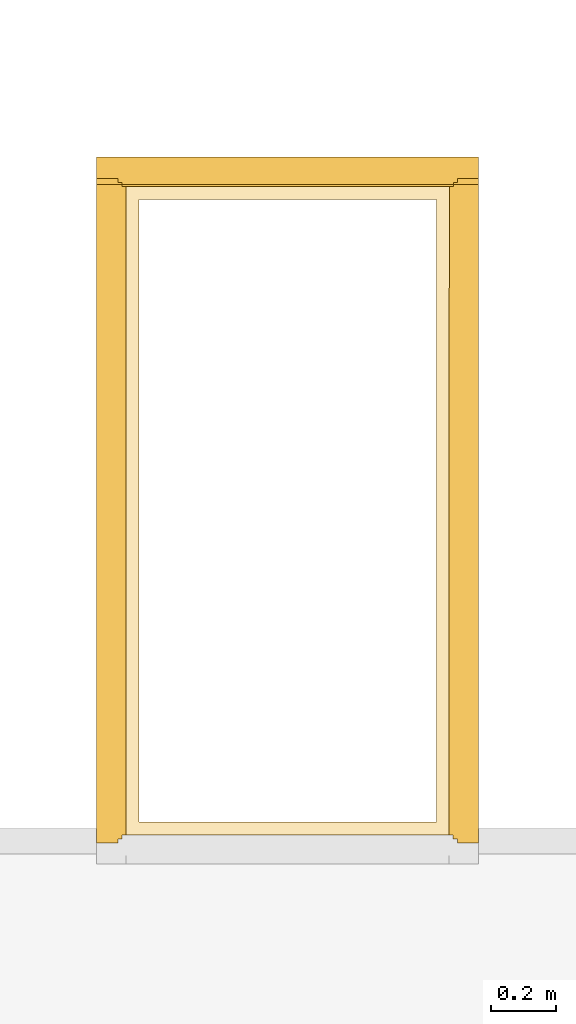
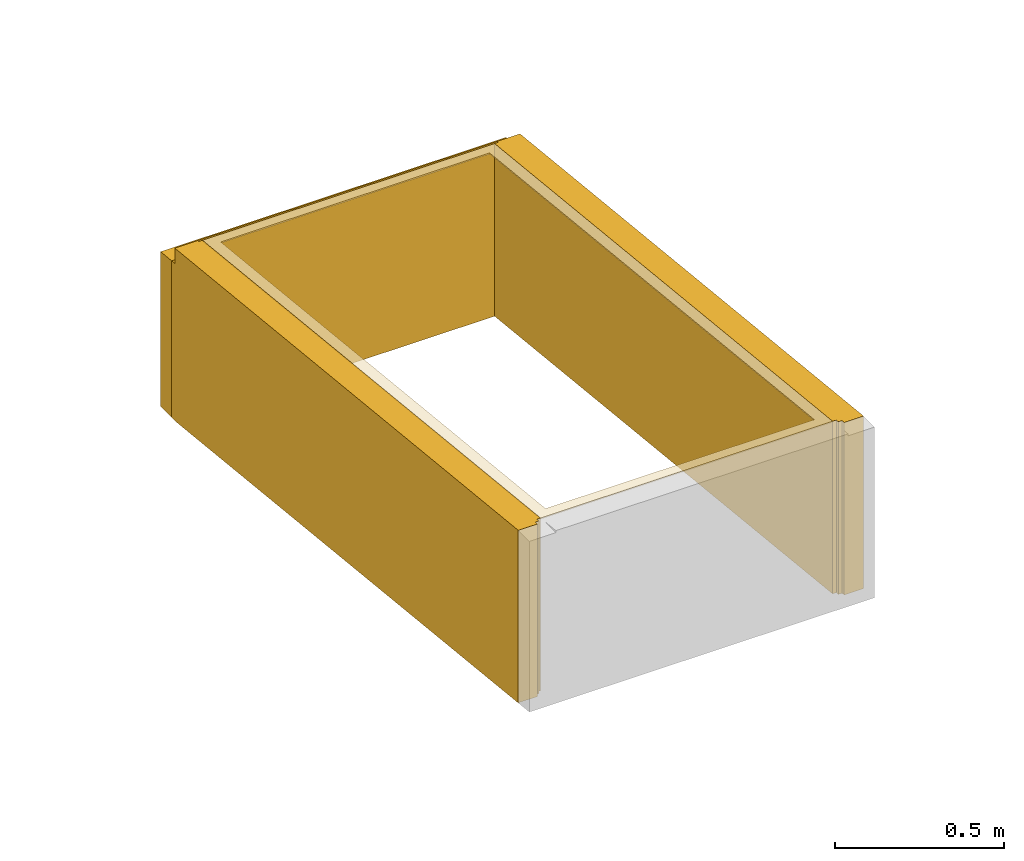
# One storey, part 14 of 23: 4 coverings, 1 opening.
"""IFC2X3 building model written with IfcOpenShell, lengths in millimetres."""

from ifc_helpers import new_model, entity, si_unit, converted_unit, derived_unit, money_unit, direction, frame, origin_with_axes, place, context, subcontext, project, spatial, faceted_brep, material, material_list, type_object, element, save


model = new_model("IFC2X3")

# Units and contexts
model_context = context("Model", 3, precision=0.01, world=origin_with_axes(), true_north=direction((0.0, 1.0)))
body_context = subcontext(model_context, "Body", "Model", "MODEL_VIEW")
ifc_project = project(units=[si_unit("LENGTHUNIT", "METRE", prefix="MILLI"), si_unit("AREAUNIT", "SQUARE_METRE"), si_unit("VOLUMEUNIT", "CUBIC_METRE"), converted_unit("PLANEANGLEUNIT", "DEGREE", entity("IfcPlaneAngleMeasure", 0.0174532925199), si_unit("PLANEANGLEUNIT", "RADIAN"), dimensions=[0, 0, 0, 0, 0, 0, 0]), si_unit("SOLIDANGLEUNIT", "STERADIAN"), money_unit("EUR"), converted_unit("TIMEUNIT", "Year", entity("IfcTimeMeasure", 31556926.0), si_unit("TIMEUNIT", "SECOND"), dimensions=[0, 0, 1, 0, 0, 0, 0]), si_unit("MASSUNIT", "GRAM", prefix="KILO"), si_unit("THERMODYNAMICTEMPERATUREUNIT", "DEGREE_CELSIUS"), si_unit("LUMINOUSINTENSITYUNIT", "LUMEN"), si_unit("ENERGYUNIT", "JOULE", prefix="MEGA"), derived_unit("THERMALCONDUCTANCEUNIT", [(si_unit("POWERUNIT", "WATT"), 1), (si_unit("LENGTHUNIT", "METRE"), -1), (si_unit("THERMODYNAMICTEMPERATUREUNIT", "KELVIN"), -1)]), derived_unit("SPECIFICHEATCAPACITYUNIT", [(si_unit("ENERGYUNIT", "JOULE"), 1), (si_unit("MASSUNIT", "GRAM", prefix="KILO"), -1), (si_unit("THERMODYNAMICTEMPERATUREUNIT", "KELVIN"), -1)]), derived_unit("MASSDENSITYUNIT", [(si_unit("MASSUNIT", "GRAM", prefix="KILO"), 1), (si_unit("VOLUMEUNIT", "CUBIC_METRE"), -1)])], contexts=[model_context])

# Site, building, storey
site_placement = place(None, origin_with_axes())
site = spatial("IfcSite", under=ifc_project, at=site_placement, Name="L.Koidula tn 11b", CompositionType="ELEMENT")
building_placement = place(site_placement, origin_with_axes())
building = spatial("IfcBuilding", under=site, at=building_placement, Name="Rakvere Riigigümnaasium", CompositionType="ELEMENT")
storey_placement = place(building_placement, frame((0.0, 0.0, 7440.0), z_axis=(0.0, 0.0, 1.0), x_axis=(1.0, 0.0, 0.0)))
storey = spatial("IfcBuildingStorey", under=building, at=storey_placement, Name="3.korrus +7,44", CompositionType="ELEMENT", Elevation=7440.0)

# Coverings
ifc_material_1 = material(Name="SKR-02_Kipsplaat")
ifc_material_2 = material(Name="mineraalvill+karkass")
ifc_material_list_1 = material_list([ifc_material_1, ifc_material_1, ifc_material_2])
covering_type_1 = type_object("IfcCoveringType", Name="SA-2xkips 91", PredefinedType="NOTDEFINED")
covering_1_placement = place(storey_placement, frame((56150.0444276, 17095.4555095, 2893.27320769), z_axis=(0.0, 0.0, 1.0), x_axis=(-1.0, 0.0, 0.0)))
element("IfcCovering", 1, at=covering_1_placement, inside=storey, type_object=covering_type_1, material=ifc_material_list_1, Name="Ava-pinnakate", PredefinedType="NOTDEFINED", context=body_context, shape_type="Brep", body=[
    faceted_brep([(1012.49901158, -6.79451562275, 633.466577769), (-12.5009724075, -6.79451562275, 633.466577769), (-12.5009724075, -6.79451562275, 578.381250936), (1012.49901158, -6.79451562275, 578.381250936), (-12.500000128, 0.0, 634.180710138), (1012.4999931, 0.0, 634.180710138), (-12.500000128, 0.0, 9.56941715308), (-12.5017888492, -12.5, 9.56941715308), (-12.5017888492, -12.5, 577.781580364), (1012.49818739, -12.5, 577.781580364), (1012.49818739, -12.5, 9.56941715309), (1012.4999931, 0.0, 9.56941715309), (999.999992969, 0.0, 9.56941706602), (999.999992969, 0.0, 9.30573779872), (0.0, 0.0, 9.30573779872), (0.0, 0.0, 9.56941706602), (0.0, -12.5, 9.56941706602), (0.0, -12.5, 7.9919348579), (999.999992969, -12.5, 7.9919348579), (999.999992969, -12.5, 9.56941706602)], [[[0, 1, 2, 3]], [[4, 1, 0, 5]], [[1, 4, 6, 7, 8, 2]], [[3, 2, 8, 9]], [[5, 0, 3, 9, 10, 11]], [[4, 5, 11, 12, 13, 14, 15, 6]], [[7, 6, 15, 16]], [[10, 9, 8, 7, 16, 17, 18, 19]], [[11, 10, 19, 12]], [[13, 12, 19, 18]], [[17, 14, 13, 18]], [[17, 16, 15, 14]]]),
    faceted_brep([(1024.9963818, -25.0, 576.467777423), (-25.0035776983, -25.0, 576.467777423), (-25.0035776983, -25.0, 9.56941715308), (0.0, -25.0, 9.56941706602), (0.0, -25.0, 6.67813191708), (999.999992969, -25.0, 6.67813191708), (999.999992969, -25.0, 9.56941706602), (1024.9963818, -25.0, 9.56941715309), (-25.0017889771, -12.5, 577.781580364), (1024.99818752, -12.5, 577.781580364), (-25.0017889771, -12.5, 9.56941715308), (0.0, -12.5, 9.56941706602), (0.0, -12.5, 7.9919348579), (999.999992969, -12.5, 7.9919348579), (999.999992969, -12.5, 9.56941706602), (1024.99818752, -12.5, 9.56941715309)], [[[0, 1, 2, 3, 4, 5, 6, 7]], [[8, 1, 0, 9]], [[1, 8, 10, 2]], [[10, 11, 3, 2]], [[3, 11, 12, 4]], [[12, 13, 5, 4]], [[14, 6, 5, 13]], [[7, 6, 14, 15]], [[9, 0, 7, 15]], [[8, 9, 15, 14, 13, 12, 11, 10]]]),
    faceted_brep([(1090.98684832, -91.0, 569.530897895), (-91.0130193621, -91.0, 569.530897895), (-91.0130193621, -91.0, 9.56941715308), (0.0, -91.0, 9.56941706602), (0.0, -91.0, 0.0), (999.999992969, -91.0, 0.0), (999.999992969, -91.0, 9.56941706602), (1090.98684832, -91.0, 9.56941715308), (-91.0035749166, -25.0, 576.467777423), (1090.99638249, -25.0, 576.467777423), (-91.0035749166, -25.0, 9.56941715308), (0.0, -25.0, 9.56941706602), (0.0, -25.0, 6.67813191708), (0.0, -88.5381809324, 0.0), (999.999992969, -88.5381809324, 0.0), (999.999992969, -25.0, 6.67813191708), (999.999992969, -25.0, 9.56941706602), (1090.99638249, -25.0, 9.56941715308)], [[[0, 1, 2, 3, 4, 5, 6, 7]], [[8, 1, 0, 9]], [[1, 8, 10, 2]], [[10, 11, 3, 2]], [[3, 11, 12, 13, 4]], [[5, 4, 13, 14]], [[6, 5, 14, 15, 16]], [[7, 6, 16, 17]], [[9, 0, 7, 17]], [[8, 9, 17, 16, 15, 12, 11, 10]], [[12, 15, 14, 13]]]),
])
covering_2_placement = place(storey_placement, frame((55150.0444346, 17095.4555095, 2902.84262484), z_axis=(0.0, 0.0, 1.0), x_axis=(-0.000144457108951, -0.999999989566, 0.0)))
element("IfcCovering", 2, at=covering_2_placement, inside=storey, type_object=covering_type_1, material=ifc_material_list_1, Name="Ava-pinnakate", PredefinedType="NOTDEFINED", context=body_context, shape_type="Brep", body=[
    faceted_brep([(0.00180571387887, -12.5, 624.611292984), (0.0, -1.29865895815e-07, 624.611292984), (0.0, -1.02232888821e-07, 0.0), (0.00180571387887, -12.5, 0.0), (2004.97700019, -1.52837742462e-08, 835.342865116), (2004.97880591, -12.5, 835.342865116), (2004.97700019, -1.1754579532e-06, 210.668278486), (2004.97700019, -1.1754579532e-06, 210.467892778), (2.50874150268, -1.03575814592e-07, 0.0), (2.51054721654, -12.5, 0.0), (2004.97880419, -12.5, 210.467892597), (2004.97880591, -12.5, 210.668278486)], [[[0, 1, 2, 3]], [[4, 1, 0, 5]], [[1, 4, 6, 7, 8, 2]], [[2, 8, 9, 3]], [[5, 0, 3, 9, 10, 11]], [[4, 5, 11, 6]], [[11, 10, 7, 6]], [[10, 9, 8, 7]]]),
    faceted_brep([(-6.79090426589, -25.0, 623.897160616), (-6.79270997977, -12.5, 623.897160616), (-6.79270997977, -12.5, 568.811833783), (-6.79090426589, -25.0, 568.811833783), (2017.47880604, -12.5, 836.656668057), (2017.48061175, -25.0, 836.656668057), (2017.47880604, -12.5, 211.781695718), (2006.88534859, -12.5, 210.668278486), (2004.97700019, -12.5, 210.668278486), (2004.97700019, -12.5, 210.467702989), (2.51054721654, -12.5, 0.0), (-12.4981944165, -12.5, 0.0), (-12.4981944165, -12.5, 568.212163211), (-12.4963887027, -25.0, 568.212163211), (-12.4963887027, -25.0, 0.0), (2.51235293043, -25.0, 0.0), (2004.97700019, -25.0, 210.467513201), (2004.97700019, -25.0, 210.668278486), (2006.8871543, -25.0, 210.668278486), (2017.48061175, -25.0, 211.781695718)], [[[0, 1, 2, 3]], [[4, 1, 0, 5]], [[1, 4, 6, 7, 8, 9, 10, 11, 12, 2]], [[3, 2, 12, 13]], [[5, 0, 3, 13, 14, 15, 16, 17, 18, 19]], [[4, 5, 19, 6]], [[6, 19, 18, 7]], [[17, 8, 7, 18]], [[8, 17, 16, 9]], [[9, 16, 15, 10]], [[14, 11, 10, 15]], [[14, 13, 12, 11]]]),
    faceted_brep([(-6.7813700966, -90.9999999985, 623.897160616), (-6.79090426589, -25.0, 623.897160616), (-6.79090426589, -25.0, 568.811833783), (-6.7813700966, -90.9999999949, 568.811833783), (2025.38909457, -25.0, 837.487883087), (2025.39862874, -90.9999999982, 837.487883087), (2029.98061188, -25.0, 837.487883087), (2029.98061188, -25.0, 213.095498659), (2006.8871543, -25.0, 210.668278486), (2004.97700019, -25.0, 210.668278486), (2004.97700019, -25.0, 210.467513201), (2.51235293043, -25.0, 0.0), (-24.9963888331, -25.0, 0.0), (-24.9963888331, -25.0, 566.89836027), (-24.9868546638, -90.9999999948, 566.89836027), (-24.9868546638, -90.9999999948, 0.0), (2.52188709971, -90.9999999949, 0.0), (2004.97700019, -91.0, 210.46651112), (2004.97700019, -91.0, 210.668278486), (2006.89668847, -90.9999999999, 210.668278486), (2029.99014605, -90.9999999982, 213.095498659), (2029.99014605, -90.9999999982, 837.487883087)], [[[0, 1, 2, 3]], [[4, 1, 0, 5]], [[1, 4, 6, 7, 8, 9, 10, 11, 12, 13, 2]], [[3, 2, 13, 14]], [[5, 0, 3, 14, 15, 16, 17, 18, 19, 20, 21]], [[4, 5, 21, 6]], [[6, 21, 20, 7]], [[7, 20, 19, 8]], [[18, 9, 8, 19]], [[9, 18, 17, 10]], [[10, 17, 16, 11]], [[15, 12, 11, 16]], [[15, 14, 13, 12]]]),
])
ifc_material_list_2 = material_list([ifc_material_2, ifc_material_1, ifc_material_1])
covering_3_placement = place(storey_placement, frame((56150.0444276, 17095.4555095, 2902.84262484), z_axis=(0.0, 0.0, 1.0), x_axis=(-0.00014309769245, -0.999999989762, 0.0)))
element("IfcCovering", 3, at=covering_3_placement, inside=storey, type_object=covering_type_1, material=ifc_material_list_2, Name="Ava-pinnakate", PredefinedType="NOTDEFINED", context=body_context, shape_type="Brep", body=[
    faceted_brep([(-6.79809313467, 25.0, 623.897160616), (-6.80753758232, 90.9999989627, 623.897160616), (-6.8075375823, 90.9999988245, 568.811833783), (-6.79809313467, 25.0, 568.811833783), (2025.37246086, 91.0000021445, 837.487883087), (2025.3819053, 25.0, 837.487883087), (2029.96397817, 91.0000021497, 837.487883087), (2029.96397817, 91.0000021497, 213.095498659), (2006.87052059, 90.9999990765, 210.668278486), (2004.9769998, 90.9999988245, 210.668278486), (2004.9769998, 90.9999988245, 210.469261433), (2.49571961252, 90.9999965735, 0.0), (-25.0130221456, 90.9999965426, 0.0), (-25.0130221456, 90.9999965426, 566.89836027), (-25.0035776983, 25.0, 566.89836027), (-25.0035776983, 25.0, 0.0), (2.50516405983, 25.0, 0.0), (2004.9769998, 25.0, 210.468268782), (2004.9769998, 25.0, 210.668278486), (2006.87996504, 25.0, 210.668278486), (2029.97342262, 25.0, 213.095498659), (2029.97342262, 25.0, 837.487883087)], [[[0, 1, 2, 3]], [[4, 1, 0, 5]], [[1, 4, 6, 7, 8, 9, 10, 11, 12, 13, 2]], [[3, 2, 13, 14]], [[5, 0, 3, 14, 15, 16, 17, 18, 19, 20, 21]], [[4, 5, 21, 6]], [[6, 21, 20, 7]], [[7, 20, 19, 8]], [[18, 9, 8, 19]], [[9, 18, 17, 10]], [[10, 17, 16, 11]], [[15, 12, 11, 16]], [[15, 14, 13, 12]]]),
    faceted_brep([(-6.79630441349, 12.5, 623.897160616), (-6.79809313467, 25.0, 623.897160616), (-6.79809313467, 25.0, 568.811833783), (-6.79630441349, 12.5, 568.811833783), (2017.47342249, 25.0, 836.656668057), (2017.47521121, 12.5, 836.656668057), (2017.47342249, 25.0, 211.781695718), (2006.87996504, 25.0, 210.668278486), (2004.9769998, 25.0, 210.668278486), (2004.9769998, 25.0, 210.468268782), (2.50516405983, 25.0, 0.0), (-12.5035775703, 25.0, 0.0), (-12.5035775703, 25.0, 568.212163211), (-12.5017888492, 12.5, 568.212163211), (-12.5017888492, 12.5, 0.0), (2.506952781, 12.5, 0.0), (2004.9769998, 12.5, 210.46808078), (2004.9769998, 12.5, 210.668278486), (2006.88175376, 12.5, 210.668278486), (2017.47521121, 12.5, 211.781695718)], [[[0, 1, 2, 3]], [[4, 1, 0, 5]], [[1, 4, 6, 7, 8, 9, 10, 11, 12, 2]], [[3, 2, 12, 13]], [[5, 0, 3, 13, 14, 15, 16, 17, 18, 19]], [[4, 5, 19, 6]], [[6, 19, 18, 7]], [[17, 8, 7, 18]], [[8, 17, 16, 9]], [[9, 16, 15, 10]], [[14, 11, 10, 15]], [[14, 13, 12, 11]]]),
    faceted_brep([(0.0, 0.0, 624.611292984), (-4.00000033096e-08, 12.5, 624.611480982), (-0.00178872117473, 12.5, 0.0), (0.0, 0.0, 0.0), (2004.9752172, 12.5, 835.34286576), (2004.9769998, 0.0, 835.342865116), (2004.9769998, 12.5, 210.668278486), (2004.9769998, 12.5, 210.46808078), (2.506952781, 12.5, 0.0), (2.50874150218, 0.0, 0.0), (2004.9769998, 0.0, 210.467892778), (2004.9769998, 0.0, 210.668278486)], [[[0, 1, 2, 3]], [[4, 1, 0, 5]], [[1, 4, 6, 7, 8, 2]], [[2, 8, 9, 3]], [[5, 0, 3, 9, 10, 11]], [[4, 5, 11, 6]], [[11, 10, 7, 6]], [[10, 9, 8, 7]]]),
])

# Covering, opening
ifc_material_3 = material(Name="Teras")
covering_type_2 = type_object("IfcCoveringType", Name="Teras 5", PredefinedType="NOTDEFINED")
covering_4_placement = place(storey_placement, frame((55246.0436107, 15728.0946826, 3666.4187087), z_axis=(0.0, 0.0, 1.0), x_axis=(1.0, 0.0, 0.0)))
covering_4 = element("IfcCovering", 4, at=covering_4_placement, inside=storey, type_object=covering_type_2, material=ifc_material_3, Name="Katuseakna terasraam", PredefinedType="NOTDEFINED", context=body_context, shape_type="Brep", body=[
    faceted_brep([(863.913032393, -597.562349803, 67.5569569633), (863.913032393, 1327.83203963, -134.810147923), (863.913032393, 1327.33818459, -139.508864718), (863.913032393, -598.056204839, 62.8582401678), (903.9979659, -637.616152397, 71.7667812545), (903.9979659, 1367.36082691, -138.964790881), (-95.9988149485, 1367.36082691, -138.964790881), (-95.9988149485, -637.616152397, 71.7667812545), (-56.0869676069, 1327.83203963, -134.810147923), (-56.0869676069, -597.562349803, 67.5569569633), (-56.0869676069, 1327.33818459, -139.508864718), (903.997966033, -637.616152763, 67.0161582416), (-95.9988153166, -637.616152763, 67.0161582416), (-95.9988153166, 1367.36082717, -143.715413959), (903.997966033, 1367.36082717, -143.715413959), (-56.0869676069, -598.056204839, 62.8582401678)], [[[0, 1, 2, 3]], [[4, 5, 6, 7], [8, 1, 0, 9]], [[1, 8, 10, 2]], [[11, 12, 13, 14], [10, 15, 3, 2]], [[9, 0, 3, 15]], [[5, 4, 11, 14]], [[6, 5, 14, 13]], [[7, 6, 13, 12]], [[4, 7, 12, 11]], [[8, 9, 15, 10]]]),
])
opening_placement = place(covering_4_placement, frame((403.913032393, 1327.8608269, 3531.88245335), z_axis=(0.0, 0.0, 1.0), x_axis=(1.0, 0.0, 0.0)))
element("IfcOpeningElement", 5, at=opening_placement, cuts=covering_4, Name="Ava ripplaes", context=body_context, shape_type="Brep", body=[
    faceted_brep([(460.0, -1925.28986097, -3463.05708192), (-460.0, -1925.28986097, -3463.05708192), (-460.0, -1926.02156021, -3470.01873519), (460.0, -1926.02156021, -3470.01873519), (460.0, 0.104528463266, -3665.42418681), (-460.0, 0.104528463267, -3665.42418681), (-460.0, -0.627170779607, -3672.38584008), (460.0, -0.627170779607, -3672.38584008)], [[[0, 1, 2, 3]], [[0, 4, 5, 1]], [[1, 5, 6, 2]], [[3, 2, 6, 7]], [[4, 0, 3, 7]], [[5, 4, 7, 6]]]),
])

save(model, "model.ifc")
